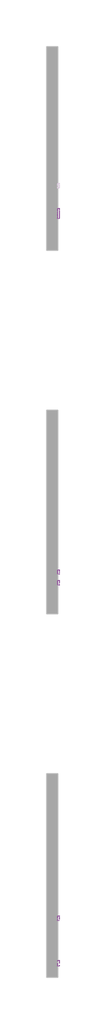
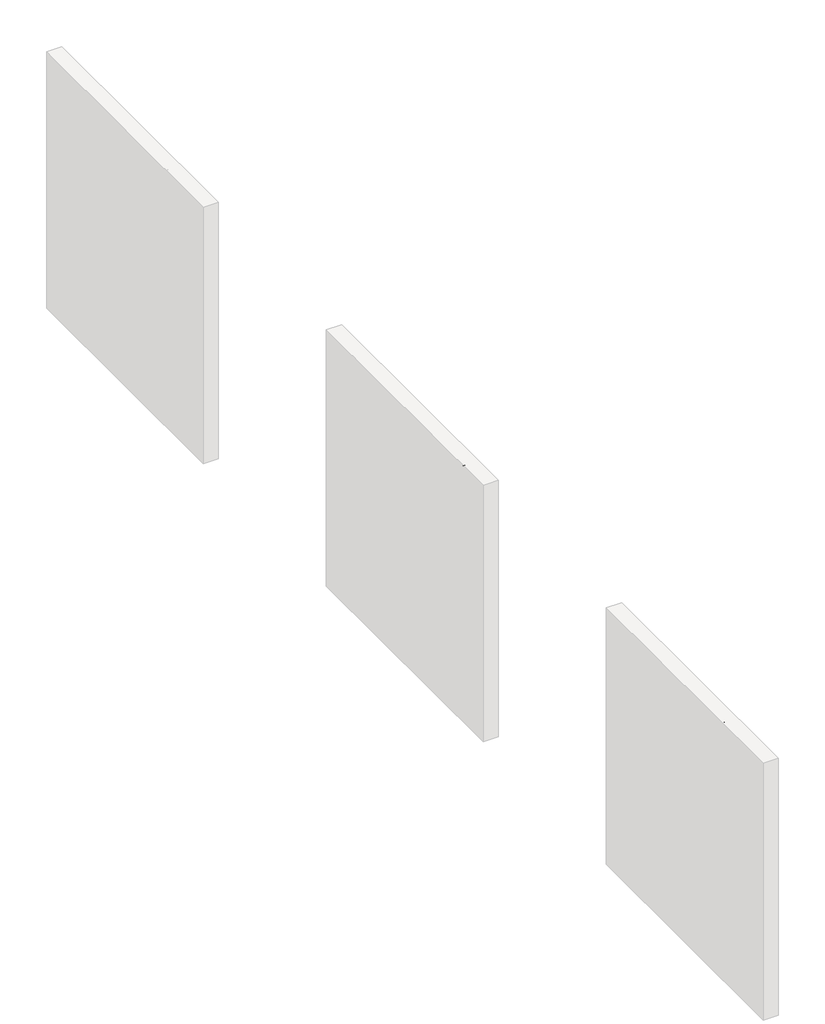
# One storey, part 5 of 7: 5 proxies.
"""IFC4 building model written with IfcOpenShell, lengths in millimetres."""

from ifc_helpers import new_model, si_unit, frame, origin, place, context, project, spatial, polyline, outline, extrude, element, save

model = new_model("IFC4")

# Units and contexts
model_context = context("Model", 3, world=origin())
ifc_project = project(units=[si_unit("LENGTHUNIT", "METRE", prefix="MILLI")], contexts=[model_context])

# Site, building, storey
site = spatial("IfcSite", under=ifc_project)
building = spatial("IfcBuilding", under=site)
storey = spatial("IfcBuildingStorey", under=building, Name="PORTOBELLO - SHOWROOM", Elevation=0.0)

# Proxies
placement = place(None, origin())
element("IfcBuildingElementProxy", 1, Name="10mm Arial", ObjectType="10mm Arial", at=placement, inside=storey, context=model_context, shape_type="SweptSolid", body=[
    extrude(outline(polyline([(411.1095472, 2478.0448381), (411.1095472, 2578.5011483), (423.6665859, 2578.5011483), (423.6665859, 2537.6907723), (477.0340007, 2537.6907723), (477.0340007, 2578.5011483), (489.5910395, 2578.5011483), (489.5910395, 2478.0448381), (477.0340007, 2478.0448381), (477.0340007, 2525.1337335), (423.6665859, 2525.1337335), (423.6665859, 2478.0448381), (411.1095472, 2478.0448381)])), frame((45290.81561, 0.0, 0.0), z_axis=(1.0, 0.0, 0.0), x_axis=(0.0, 1.0, 0.0)), (0.0, 0.0, 1.0), 20.0),
    extrude(outline(polyline([(506.8569678, 2514.9311395), (509.5731632, 2532.718234), (517.7217494, 2545.2200904), (527.7894533, 2551.3453256), (539.84372, 2553.3870707), (553.0353552, 2550.9008016), (563.5721087, 2543.4419941), (570.4790932, 2531.5992596), (572.7814213, 2515.9612091), (568.7101939, 2493.6185092), (556.8521309, 2480.9756313), (539.84372, 2476.4752083), (526.4926693, 2478.9522804), (515.9681785, 2486.3834967), (509.1347705, 2498.4745516), (506.8569678, 2514.9311395)]), holes=[polyline([(519.4140066, 2514.955665), (520.8671404, 2503.591177), (525.2265421, 2495.4947074), (531.7871043, 2490.6478621), (539.84372, 2489.032247), (547.8635475, 2490.6570592), (554.411847, 2495.5314956), (558.7712487, 2503.7352641), (560.2243826, 2515.3480724), (558.7620516, 2526.3814666), (554.3750588, 2534.3675716), (547.8175623, 2539.2144169), (539.84372, 2540.8300319), (531.7871043, 2539.2205482), (525.2265421, 2534.392097), (520.8671404, 2526.3140216), (519.4140066, 2514.955665)])]), frame((45290.81561, 0.0, 0.0), z_axis=(1.0, 0.0, 0.0), x_axis=(0.0, 1.0, 0.0)), (0.0, 0.0, 1.0), 20.0),
    extrude(outline(polyline([(586.9080899, 2478.0448381), (586.9080899, 2551.8174409), (599.4651287, 2551.8174409), (599.4651287, 2541.516745), (609.0668488, 2550.4194893), (622.1757105, 2553.3870707), (634.0337735, 2550.9958377), (642.1271774, 2544.7173184), (645.8918365, 2535.4834803), (646.5540241, 2523.3433744), (646.5540241, 2478.0448381), (633.9969853, 2478.0448381), (633.9969853, 2521.6511173), (632.5499828, 2532.7611535), (627.4364231, 2538.6350027), (618.8157217, 2540.8300319), (605.1918251, 2535.9004132), (600.8968028, 2528.7573711), (599.4651287, 2517.1874824), (599.4651287, 2478.0448381), (586.9080899, 2478.0448381)])), frame((45290.81561, 0.0, 0.0), z_axis=(1.0, 0.0, 0.0), x_axis=(0.0, 1.0, 0.0)), (0.0, 0.0, 1.0), 20.0),
    extrude(outline(polyline([(660.6806927, 2514.9311395), (663.3968881, 2532.718234), (671.5454743, 2545.2200904), (681.6131782, 2551.3453256), (693.6674449, 2553.3870707), (706.8590801, 2550.9008016), (717.3958336, 2543.4419941), (724.3028181, 2531.5992596), (726.6051462, 2515.9612091), (722.5339188, 2493.6185092), (710.6758558, 2480.9756313), (693.6674449, 2476.4752083), (680.3163942, 2478.9522804), (669.7919034, 2486.3834967), (662.9584954, 2498.4745516), (660.6806927, 2514.9311395)]), holes=[polyline([(673.2377315, 2514.955665), (674.6908654, 2503.591177), (679.050267, 2495.4947074), (685.6108292, 2490.6478621), (693.6674449, 2489.032247), (701.6872724, 2490.6570592), (708.2355719, 2495.5314956), (712.5949736, 2503.7352641), (714.0481075, 2515.3480724), (712.5857765, 2526.3814666), (708.1987837, 2534.3675716), (701.6412872, 2539.2144169), (693.6674449, 2540.8300319), (685.6108292, 2539.2205482), (679.050267, 2534.392097), (674.6908654, 2526.3140216), (673.2377315, 2514.955665)])]), frame((45290.81561, 0.0, 0.0), z_axis=(1.0, 0.0, 0.0), x_axis=(0.0, 1.0, 0.0)), (0.0, 0.0, 1.0), 20.0),
    extrude(outline(polyline([(45310.81561, 753.2888536), (45310.81561, 740.7318149), (45290.81561, 740.7318149), (45290.81561, 753.2888536), (45310.81561, 753.2888536)])), frame((0.0, 0.0, 2478.0448381), z_axis=(0.0, 0.0, 1.0), x_axis=(1.0, 0.0, 0.0)), (0.0, 0.0, 1.0), 100.4563101),
    extrude(outline(polyline([(819.2133072, 2478.0448381), (819.2133072, 2490.7245042), (809.3785952, 2480.0375322), (796.5517763, 2476.4752083), (784.7427642, 2478.9768058), (776.6003094, 2485.2553252), (772.8601758, 2494.501426), (772.1244118, 2506.175548), (772.1244118, 2551.8174409), (784.6814505, 2551.8174409), (784.6814505, 2512.0861854), (785.44174, 2499.283892), (790.4081469, 2491.7668365), (799.7646123, 2489.032247), (810.2492492, 2491.8281502), (817.1776935, 2499.4433075), (819.2133072, 2513.435086), (819.2133072, 2551.8174409), (831.7703459, 2551.8174409), (831.7703459, 2478.0448381), (819.2133072, 2478.0448381)])), frame((45290.81561, 0.0, 0.0), z_axis=(1.0, 0.0, 0.0), x_axis=(0.0, 1.0, 0.0)), (0.0, 0.0, 1.0), 20.0),
    extrude(outline(polyline([(45310.81561, 861.593313), (45310.81561, 849.0362742), (45290.81561, 849.0362742), (45290.81561, 861.593313), (45310.81561, 861.593313)])), frame((0.0, 0.0, 2478.0448381), z_axis=(0.0, 0.0, 1.0), x_axis=(1.0, 0.0, 0.0)), (0.0, 0.0, 1.0), 100.4563101),
    extrude(outline(polyline([(927.5177665, 2478.0448381), (927.5177665, 2490.7245042), (917.6830545, 2480.0375322), (904.8562356, 2476.4752083), (893.0472236, 2478.9768058), (884.9047688, 2485.2553252), (881.1646351, 2494.501426), (880.4288712, 2506.175548), (880.4288712, 2551.8174409), (892.9859099, 2551.8174409), (892.9859099, 2512.0861854), (893.7461994, 2499.283892), (898.7126063, 2491.7668365), (908.0690717, 2489.032247), (918.5537086, 2491.8281502), (925.4821528, 2499.4433075), (927.5177665, 2513.435086), (927.5177665, 2551.8174409), (940.0748053, 2551.8174409), (940.0748053, 2478.0448381), (927.5177665, 2478.0448381)])), frame((45290.81561, 0.0, 0.0), z_axis=(1.0, 0.0, 0.0), x_axis=(0.0, 1.0, 0.0)), (0.0, 0.0, 1.0), 20.0),
])
element("IfcBuildingElementProxy", 2, Name="10mm Arial", ObjectType="10mm Arial", at=placement, inside=storey, context=model_context, shape_type="SweptSolid", body=[
    extrude(outline(polyline([(45310.81561, 5270.2362158), (45310.81561, 5257.679177), (45290.81561, 5257.679177), (45290.81561, 5270.2362158), (45310.81561, 5270.2362158)])), frame((0.0, 0.0, 2478.0448381), z_axis=(0.0, 0.0, 1.0), x_axis=(1.0, 0.0, 0.0)), (0.0, 0.0, 1.0), 100.4563101),
    extrude(outline(polyline([(5306.3377022, 2478.0448381), (5293.7806635, 2478.0448381), (5293.7806635, 2578.5011483), (5306.3377022, 2578.5011483), (5306.3377022, 2541.2469649), (5315.1300819, 2550.3520443), (5326.0561772, 2553.3870707), (5338.6377414, 2550.6524812), (5348.398877, 2542.9637475), (5354.3953536, 2531.0075827), (5356.5658573, 2516.0347855), (5354.3187115, 2499.2716292), (5347.5772739, 2486.8004296), (5337.6843139, 2479.0565136), (5325.9826008, 2476.4752083), (5314.8173822, 2479.8045403), (5306.3377022, 2489.7925365), (5306.3377022, 2478.0448381)]), holes=[polyline([(5306.3377022, 2515.4461743), (5309.7712675, 2497.8859404), (5316.3502239, 2491.2456704), (5324.9034803, 2489.032247), (5332.1507556, 2490.6631905), (5338.3434358, 2495.5560211), (5342.5924729, 2503.6800818), (5344.0088186, 2515.0047159), (5342.6507209, 2526.4948969), (5338.5764278, 2534.5269871), (5332.5768856, 2539.2542707), (5325.4430405, 2540.8300319), (5318.1957652, 2539.1990884), (5312.003085, 2534.3062579), (5307.7540479, 2526.32935), (5306.3377022, 2515.4461743)])]), frame((45290.81561, 0.0, 0.0), z_axis=(1.0, 0.0, 0.0), x_axis=(0.0, 1.0, 0.0)), (0.0, 0.0, 1.0), 20.0),
    extrude(outline(polyline([(45310.81561, 5383.2495647), (45310.81561, 5370.6925259), (45290.81561, 5370.6925259), (45290.81561, 5383.2495647), (45310.81561, 5383.2495647)])), frame((0.0, 0.0, 2565.9441095), z_axis=(0.0, 0.0, 1.0), x_axis=(1.0, 0.0, 0.0)), (0.0, 0.0, 1.0), 12.5570388),
    extrude(outline(polyline([(45310.81561, 5383.2495647), (45310.81561, 5370.6925259), (45290.81561, 5370.6925259), (45290.81561, 5383.2495647), (45310.81561, 5383.2495647)])), frame((0.0, 0.0, 2478.0448381), z_axis=(0.0, 0.0, 1.0), x_axis=(1.0, 0.0, 0.0)), (0.0, 0.0, 1.0), 73.7726028),
    extrude(outline(polyline([(5394.2369736, 2478.0448381), (5394.2369736, 2489.8661129), (5437.5734727, 2539.2604021), (5424.7466538, 2539.2604021), (5397.3762333, 2539.2604021), (5397.3762333, 2551.8174409), (5455.4525376, 2551.8174409), (5455.4525376, 2541.148863), (5417.0211319, 2497.3218546), (5411.1350199, 2490.6018769), (5425.654096, 2490.6018769), (5457.0221675, 2490.6018769), (5457.0221675, 2478.0448381), (5394.2369736, 2478.0448381)])), frame((45290.81561, 0.0, 0.0), z_axis=(1.0, 0.0, 0.0), x_axis=(0.0, 1.0, 0.0)), (0.0, 0.0, 1.0), 20.0),
    extrude(outline(polyline([(5516.6681016, 2487.4626172), (5504.4912076, 2478.9522804), (5491.0389893, 2476.4752083), (5480.5451554, 2477.9651303), (5472.8043051, 2482.4348966), (5468.0310362, 2489.2223194), (5466.4399465, 2497.6652112), (5468.8434423, 2507.598025), (5475.1587498, 2514.8085122), (5483.9511295, 2518.9287905), (5494.8159111, 2520.8172514), (5516.5945252, 2525.1337335), (5516.6681016, 2527.9296366), (5513.2100109, 2537.2002629), (5499.3285969, 2540.8300319), (5486.6244054, 2538.4142735), (5480.5666152, 2529.842623), (5468.0095764, 2531.4122529), (5473.4419672, 2543.674986), (5484.3803252, 2550.8609477), (5500.9472777, 2553.3870707), (5516.1653296, 2551.1552533), (5524.7615055, 2545.5511842), (5528.6120037, 2537.0285847), (5529.2251404, 2526.0411757), (5529.2251404, 2510.4184537), (5529.8628025, 2488.6030514), (5532.3644001, 2478.0448381), (5519.8073613, 2478.0448381), (5516.6681016, 2487.4626172)]), holes=[polyline([(5516.6681016, 2512.5766947), (5496.4100664, 2508.7261965), (5485.6065985, 2506.6905828), (5480.713768, 2503.3796448), (5478.9969853, 2498.548128), (5482.7371189, 2491.7545738), (5493.7122651, 2489.032247), (5506.4164567, 2492.0366167), (5514.6079625, 2499.3084174), (5516.5945252, 2509.0205021), (5516.6681016, 2512.5766947)])]), frame((45290.81561, 0.0, 0.0), z_axis=(1.0, 0.0, 0.0), x_axis=(0.0, 1.0, 0.0)), (0.0, 0.0, 1.0), 20.0),
])
element("IfcBuildingElementProxy", 3, Name="10mm Arial", ObjectType="10mm Arial", at=placement, inside=storey, context=model_context, shape_type="SweptSolid", body=[
    extrude(outline(polyline([(10061.1095472, 2478.0448381), (10061.1095472, 2578.5011483), (10073.6665859, 2578.5011483), (10073.6665859, 2529.3275882), (10125.1700653, 2578.5011483), (10142.7302992, 2578.5011483), (10099.491902, 2537.2002629), (10144.299929, 2478.0448381), (10128.9469871, 2478.0448381), (10090.5891577, 2528.7144516), (10073.6665859, 2512.5766947), (10073.6665859, 2478.0448381), (10061.1095472, 2478.0448381)])), frame((45290.81561, 0.0, 0.0), z_axis=(1.0, 0.0, 0.0), x_axis=(0.0, 1.0, 0.0)), (0.0, 0.0, 1.0), 20.0),
    extrude(outline(polyline([(10203.7987104, 2500.0196559), (10216.1104945, 2498.4500261), (10211.6744508, 2489.1732685), (10204.595788, 2482.2386928), (10195.0339218, 2477.9160794), (10183.1482677, 2476.4752083), (10168.4145938, 2478.9614774), (10157.077697, 2486.4202849), (10149.8488158, 2498.3672527), (10147.4391887, 2514.3180028), (10149.8733412, 2530.8052476), (10157.1757988, 2543.1354258), (10168.3594115, 2550.8241595), (10182.4370292, 2553.3870707), (10196.0762542, 2550.8302908), (10206.9747583, 2543.1599512), (10214.120866, 2530.8542985), (10216.5029019, 2514.3915792), (10216.4293255, 2511.0070649), (10159.9962275, 2511.0070649), (10162.1697969, 2501.6076799), (10167.2189773, 2494.6976298), (10174.5061065, 2490.4485927), (10183.3935224, 2489.032247), (10195.7053065, 2491.6564719), (10203.7987104, 2500.0196559)]), holes=[polyline([(10159.9962275, 2523.5641036), (10203.9458632, 2523.5641036), (10198.9181426, 2534.94392), (10191.5972909, 2539.358504), (10182.3879783, 2540.8300319), (10166.9246717, 2536.1334051), (10162.0594323, 2530.6427664), (10159.9962275, 2523.5641036)])]), frame((45290.81561, 0.0, 0.0), z_axis=(1.0, 0.0, 0.0), x_axis=(0.0, 1.0, 0.0)), (0.0, 0.0, 1.0), 20.0),
    extrude(outline(polyline([(10229.0599407, 2449.7915009), (10227.4903109, 2461.8825558), (10233.8669321, 2460.7789098), (10239.8266204, 2462.1645986), (10243.4809149, 2466.0273596), (10246.9144802, 2475.2734604), (10247.8954989, 2478.3146182), (10221.2117915, 2551.8174409), (10234.4555433, 2551.8174409), (10248.6067374, 2510.8599121), (10253.5363561, 2494.4769006), (10258.4659749, 2508.9469257), (10273.0095764, 2551.8174409), (10286.1552264, 2551.8174409), (10260.4770631, 2476.2790045), (10253.8061362, 2459.895993), (10246.5220727, 2451.0422997), (10236.7364117, 2448.221871), (10229.0599407, 2449.7915009)])), frame((45290.81561, 0.0, 0.0), z_axis=(1.0, 0.0, 0.0), x_axis=(0.0, 1.0, 0.0)), (0.0, 0.0, 1.0), 20.0),
    extrude(outline(polyline([(10355.3415669, 2478.0448381), (10327.946621, 2578.5011483), (10340.8960672, 2578.5011483), (10356.7885694, 2512.4785929), (10361.6936627, 2492.0979303), (10366.9421125, 2510.1241481), (10386.8567912, 2578.5011483), (10405.5206711, 2578.5011483), (10419.9906962, 2528.9351808), (10430.7573759, 2492.0979303), (10435.5153164, 2511.8899817), (10451.5549714, 2578.5011483), (10464.5044176, 2578.5011483), (10437.0849462, 2478.0448381), (10423.6695162, 2478.0448381), (10399.5855082, 2555.5453118), (10396.2255193, 2566.3610424), (10392.4485975, 2553.3380198), (10370.4983051, 2478.0448381), (10355.3415669, 2478.0448381)])), frame((45290.81561, 0.0, 0.0), z_axis=(1.0, 0.0, 0.0), x_axis=(0.0, 1.0, 0.0)), (0.0, 0.0, 1.0), 20.0),
    extrude(outline(polyline([(10527.1424587, 2500.0196559), (10539.4542428, 2498.4500261), (10535.018199, 2489.1732685), (10527.9395363, 2482.2386928), (10518.3776701, 2477.9160794), (10506.492016, 2476.4752083), (10491.7583421, 2478.9614774), (10480.4214453, 2486.4202849), (10473.1925641, 2498.3672527), (10470.782937, 2514.3180028), (10473.2170895, 2530.8052476), (10480.5195471, 2543.1354258), (10491.7031598, 2550.8241595), (10505.7807775, 2553.3870707), (10519.4200024, 2550.8302908), (10530.3185066, 2543.1599512), (10537.4646143, 2530.8542985), (10539.8466502, 2514.3915792), (10539.7730738, 2511.0070649), (10483.3399758, 2511.0070649), (10485.5135452, 2501.6076799), (10490.5627256, 2494.6976298), (10497.8498548, 2490.4485927), (10506.7372707, 2489.032247), (10519.0490548, 2491.6564719), (10527.1424587, 2500.0196559)]), holes=[polyline([(10483.3399758, 2523.5641036), (10527.2896115, 2523.5641036), (10522.2618909, 2534.94392), (10514.9410392, 2539.358504), (10505.7317265, 2540.8300319), (10490.26842, 2536.1334051), (10485.4031806, 2530.6427664), (10483.3399758, 2523.5641036)])]), frame((45290.81561, 0.0, 0.0), z_axis=(1.0, 0.0, 0.0), x_axis=(0.0, 1.0, 0.0)), (0.0, 0.0, 1.0), 20.0),
    extrude(outline(polyline([(10547.6947995, 2500.0196559), (10560.2518382, 2501.5892858), (10566.0643738, 2492.2696086), (10579.381702, 2489.032247), (10592.1839954, 2491.9998285), (10596.3533247, 2498.9650609), (10592.1594699, 2504.6059182), (10579.2345492, 2508.1866362), (10560.3254146, 2514.3302656), (10552.0725952, 2521.5039645), (10549.2644293, 2531.6329821), (10551.5207722, 2540.9894475), (10557.6766643, 2548.1386209), (10565.6597036, 2551.8542291), (10576.4631715, 2553.3870707), (10591.742537, 2550.9222613), (10601.4546217, 2544.2513345), (10605.7711038, 2532.9818827), (10593.214065, 2531.4122529), (10588.4929127, 2538.3406971), (10577.4441901, 2540.8300319), (10565.4267116, 2538.4510617), (10561.8214681, 2532.9083063), (10563.3175215, 2529.2540118), (10568.0018856, 2526.4826341), (10578.8176163, 2523.8093583), (10597.2485042, 2517.8987209), (10605.807892, 2511.2032686), (10608.9103635, 2500.2894361), (10605.2683317, 2488.2719576), (10594.7591694, 2479.5531543), (10579.2100237, 2476.4752083), (10566.5487517, 2477.958999), (10557.3087823, 2482.4103711), (10551.1406275, 2489.7802737), (10547.6947995, 2500.0196559)])), frame((45290.81561, 0.0, 0.0), z_axis=(1.0, 0.0, 0.0), x_axis=(0.0, 1.0, 0.0)), (0.0, 0.0, 1.0), 20.0),
    extrude(outline(polyline([(10649.7207395, 2488.5172122), (10651.2903693, 2477.6769561), (10641.8971157, 2476.4752083), (10631.3756906, 2478.5598729), (10626.1272408, 2484.0290519), (10624.6066619, 2498.2783478), (10624.6066619, 2539.2604021), (10615.1888828, 2539.2604021), (10615.1888828, 2551.8174409), (10624.6066619, 2551.8174409), (10624.6066619, 2569.7455568), (10637.1637007, 2577.1277221), (10637.1637007, 2551.8174409), (10649.7207395, 2551.8174409), (10649.7207395, 2539.2604021), (10637.1637007, 2539.2604021), (10637.1637007, 2498.6462298), (10637.8258883, 2492.1715067), (10639.9718666, 2489.8783756), (10644.2515605, 2489.032247), (10649.7207395, 2488.5172122)])), frame((45290.81561, 0.0, 0.0), z_axis=(1.0, 0.0, 0.0), x_axis=(0.0, 1.0, 0.0)), (0.0, 0.0, 1.0), 20.0),
])
element("IfcBuildingElementProxy", 4, Name="10mm Arial Narrow", ObjectType="10mm Arial Narrow", at=placement, inside=storey, context=model_context, shape_type="SweptSolid", body=[
    extrude(outline(polyline([(1013.2446063, 2478.0448381), (1013.2446063, 2578.7634419), (1044.541491, 2578.7634419), (1060.8371925, 2576.8851211), (1072.3101786, 2567.4046779), (1076.599857, 2550.3855691), (1074.8135486, 2538.3097436), (1069.4546234, 2528.6833498), (1059.7108346, 2522.3820914), (1044.7699354, 2520.2816719), (1022.9915679, 2520.2816719), (1022.9915679, 2478.0448381), (1013.2446063, 2478.0448381)]), holes=[polyline([(1022.9915679, 2531.6531272), (1045.9629229, 2531.6531272), (1061.8271183, 2536.1839414), (1066.8528954, 2549.8525322), (1064.3780809, 2560.0183086), (1058.4004521, 2565.8182584), (1045.7344785, 2567.3919866), (1022.9915679, 2567.3919866), (1022.9915679, 2531.6531272)])]), frame((45290.81561, 0.0, 0.0), z_axis=(1.0, 0.0, 0.0), x_axis=(0.0, 1.0, 0.0)), (0.0, 0.0, 1.0), 20.0),
    extrude(outline(polyline([(1084.7223251, 2514.5959443), (1086.676794, 2531.1867199), (1092.5402006, 2543.1388047), (1101.3987673, 2550.3633593), (1112.3387164, 2552.7715441), (1123.151752, 2550.3633593), (1132.0357014, 2543.1388047), (1137.9752562, 2531.3770902), (1139.9551078, 2515.3574257), (1138.0101574, 2498.1955391), (1132.1753064, 2486.0530839), (1123.3262582, 2478.8285294), (1112.3387164, 2476.4203445), (1101.4780883, 2478.834875), (1092.6036574, 2486.0784667), (1086.6926582, 2498.0368971), (1084.7223251, 2514.5959443)]), holes=[polyline([(1094.4692867, 2514.621327), (1095.7733236, 2502.0695756), (1099.6854342, 2493.1983175), (1105.5266309, 2487.925059), (1112.6179263, 2486.1673061), (1119.3379995, 2487.9409232), (1125.0300728, 2493.2617743), (1128.9136278, 2502.1488966), (1130.2081461, 2514.621327), (1128.9041093, 2527.1350043), (1124.9919987, 2535.9935711), (1119.1508019, 2541.2668296), (1112.0595066, 2543.0245825), (1105.2918408, 2541.2573111), (1099.6092861, 2535.955497), (1095.7542866, 2527.0874118), (1094.4692867, 2514.621327)])]), frame((45290.81561, 0.0, 0.0), z_axis=(1.0, 0.0, 0.0), x_axis=(0.0, 1.0, 0.0)), (0.0, 0.0, 1.0), 20.0),
    extrude(outline(polyline([(1211.4328266, 2486.1673061), (1213.0573202, 2476.4203445), (1205.6963335, 2476.4203445), (1197.4215692, 2478.539801), (1193.1065081, 2484.3397508), (1191.9389033, 2498.985576), (1191.9389033, 2541.4000889), (1183.8164352, 2541.4000889), (1183.8164352, 2544.6490761), (1182.1919416, 2539.7755952), (1174.6278933, 2541.4000889), (1168.5487336, 2539.0775706), (1164.6778699, 2532.5922876), (1162.6980183, 2517.184981), (1162.6980183, 2478.0448381), (1152.9510567, 2478.0448381), (1152.9510567, 2551.1470505), (1162.6980183, 2551.1470505), (1162.6980183, 2541.4508543), (1168.9421656, 2550.5378654), (1175.3386092, 2552.7715441), (1183.8164352, 2551.1470505), (1191.9389033, 2551.1470505), (1191.9389033, 2567.3919866), (1201.6858649, 2575.5144546), (1201.6858649, 2551.1470505), (1211.4328266, 2551.1470505), (1211.4328266, 2541.4000889), (1201.6858649, 2541.4000889), (1201.6858649, 2496.7518973), (1202.5488772, 2488.7563428), (1207.1685309, 2486.1673061), (1211.4328266, 2486.1673061)])), frame((45290.81561, 0.0, 0.0), z_axis=(1.0, 0.0, 0.0), x_axis=(0.0, 1.0, 0.0)), (0.0, 0.0, 1.0), 20.0),
    extrude(outline(polyline([(1217.930801, 2514.5959443), (1219.8852699, 2531.1867199), (1225.7486765, 2543.1388047), (1234.6072432, 2550.3633593), (1245.5471924, 2552.7715441), (1256.360228, 2550.3633593), (1265.2441774, 2543.1388047), (1271.1837321, 2531.3770902), (1273.1635837, 2515.3574257), (1271.2186334, 2498.1955391), (1265.3837823, 2486.0530839), (1256.5347341, 2478.8285294), (1245.5471924, 2476.4203445), (1234.6865642, 2478.834875), (1225.8121333, 2486.0784667), (1219.9011341, 2498.0368971), (1217.930801, 2514.5959443)]), holes=[polyline([(1227.6777627, 2514.621327), (1228.9817995, 2502.0695756), (1232.8939101, 2493.1983175), (1238.7351069, 2487.925059), (1245.8264022, 2486.1673061), (1252.5464754, 2487.9409232), (1258.2385487, 2493.2617743), (1262.1221037, 2502.1488966), (1263.4166221, 2514.621327), (1262.1125852, 2527.1350043), (1258.2004746, 2535.9935711), (1252.3592779, 2541.2668296), (1245.2679825, 2543.0245825), (1238.5003168, 2541.2573111), (1232.817762, 2535.955497), (1228.9627625, 2527.0874118), (1227.6777627, 2514.621327)])]), frame((45290.81561, 0.0, 0.0), z_axis=(1.0, 0.0, 0.0), x_axis=(0.0, 1.0, 0.0)), (0.0, 0.0, 1.0), 20.0),
    extrude(outline(polyline([(1295.9064942, 2478.0448381), (1286.1595326, 2478.0448381), (1286.1595326, 2578.7634419), (1295.9064942, 2578.7634419), (1295.9064942, 2543.3545577), (1303.305555, 2550.4363345), (1312.5067883, 2552.7715441), (1325.388515, 2548.5707052), (1334.6658964, 2535.8412748), (1338.1433281, 2515.154364), (1336.2110691, 2498.7000205), (1330.4142921, 2486.4972814), (1322.0411697, 2478.9395787), (1312.3798748, 2476.4203445), (1303.0390365, 2479.0347639), (1295.9064942, 2486.801874), (1295.9064942, 2478.0448381)]), holes=[polyline([(1295.9064942, 2515.154364), (1297.9878767, 2497.9068107), (1303.876666, 2489.1751576), (1312.3291093, 2486.1673061), (1318.2718369, 2487.9567874), (1323.5101942, 2493.3252311), (1328.3963664, 2514.7482406), (1323.6878732, 2536.1839414), (1318.4431702, 2541.3144222), (1312.1260476, 2543.0245825), (1306.1484188, 2541.2351012), (1300.8561232, 2535.8666575), (1295.9064942, 2515.154364)])]), frame((45290.81561, 0.0, 0.0), z_axis=(1.0, 0.0, 0.0), x_axis=(0.0, 1.0, 0.0)), (0.0, 0.0, 1.0), 20.0),
    extrude(outline(polyline([(1390.1271236, 2500.7877486), (1399.8740852, 2499.163255), (1396.1745549, 2489.2766884), (1390.355568, 2482.1568376), (1382.6519147, 2477.8544678), (1373.2983851, 2476.4203445), (1361.7048311, 2478.834875), (1352.5607089, 2486.0784667), (1346.6211541, 2497.8846009), (1344.6413025, 2513.9867592), (1346.6306726, 2530.6536829), (1352.5987829, 2542.8342121), (1361.6128188, 2550.2872111), (1372.7399654, 2552.7715441), (1383.4229146, 2550.3728778), (1392.1704319, 2543.1768787), (1398.005283, 2531.4373741), (1399.9502334, 2515.4081911), (1399.8740852, 2512.1592039), (1354.3882642, 2512.1592039), (1360.3912757, 2492.716046), (1366.3213119, 2487.8044911), (1373.4252986, 2486.1673061), (1383.6037664, 2489.8224168), (1390.1271236, 2500.7877486)]), holes=[polyline([(1355.0482147, 2521.9061655), (1390.1271236, 2521.9061655), (1385.8628278, 2536.17125), (1380.0374953, 2541.3112494), (1372.8161135, 2543.0245825), (1360.6070288, 2537.3134721), (1355.0482147, 2521.9061655)])]), frame((45290.81561, 0.0, 0.0), z_axis=(1.0, 0.0, 0.0), x_axis=(0.0, 1.0, 0.0)), (0.0, 0.0, 1.0), 20.0),
    extrude(outline(polyline([(45310.81561, 1422.6169957), (45310.81561, 1412.8700341), (45290.81561, 1412.8700341), (45290.81561, 1422.6169957), (45310.81561, 1422.6169957)])), frame((0.0, 0.0, 2478.0448381), z_axis=(0.0, 0.0, 1.0), x_axis=(1.0, 0.0, 0.0)), (0.0, 0.0, 1.0), 100.7186038),
    extrude(outline(polyline([(45310.81561, 1448.6088935), (45310.81561, 1438.8619318), (45290.81561, 1438.8619318), (45290.81561, 1448.6088935), (45310.81561, 1448.6088935)])), frame((0.0, 0.0, 2478.0448381), z_axis=(0.0, 0.0, 1.0), x_axis=(1.0, 0.0, 0.0)), (0.0, 0.0, 1.0), 100.7186038),
    extrude(outline(polyline([(1459.9803487, 2514.5959443), (1461.9348176, 2531.1867199), (1467.7982242, 2543.1388047), (1476.656791, 2550.3633593), (1487.5967401, 2552.7715441), (1498.4097757, 2550.3633593), (1507.2937251, 2543.1388047), (1513.2332799, 2531.3770902), (1515.2131315, 2515.3574257), (1513.2681811, 2498.1955391), (1507.43333, 2486.0530839), (1498.5842818, 2478.8285294), (1487.5967401, 2476.4203445), (1476.7361119, 2478.834875), (1467.861681, 2486.0784667), (1461.9506818, 2498.0368971), (1459.9803487, 2514.5959443)]), holes=[polyline([(1469.7273104, 2514.621327), (1471.0313473, 2502.0695756), (1474.9434578, 2493.1983175), (1480.7846546, 2487.925059), (1487.8759499, 2486.1673061), (1494.5960231, 2487.9409232), (1500.2880964, 2493.2617743), (1504.1716515, 2502.1488966), (1505.4661698, 2514.621327), (1504.1621329, 2527.1350043), (1500.2500224, 2535.9935711), (1494.4088256, 2541.2668296), (1487.3175303, 2543.0245825), (1480.5498645, 2541.2573111), (1474.8673097, 2535.955497), (1471.0123102, 2527.0874118), (1469.7273104, 2514.621327)])]), frame((45290.81561, 0.0, 0.0), z_axis=(1.0, 0.0, 0.0), x_axis=(0.0, 1.0, 0.0)), (0.0, 0.0, 1.0), 20.0),
])
element("IfcBuildingElementProxy", 5, Name="10mm Arial Narrow", ObjectType="10mm Arial Narrow", at=placement, inside=storey, context=model_context, shape_type="SweptSolid", body=[
    extrude(outline(polyline([(5608.2446063, 2478.0448381), (5608.2446063, 2578.7634419), (5639.541491, 2578.7634419), (5655.8371925, 2576.8851211), (5667.3101786, 2567.4046779), (5671.599857, 2550.3855691), (5669.8135486, 2538.3097436), (5664.4546234, 2528.6833498), (5654.7108346, 2522.3820914), (5639.7699354, 2520.2816719), (5617.9915679, 2520.2816719), (5617.9915679, 2478.0448381), (5608.2446063, 2478.0448381)]), holes=[polyline([(5617.9915679, 2531.6531272), (5640.9629229, 2531.6531272), (5656.8271183, 2536.1839414), (5661.8528954, 2549.8525322), (5659.3780809, 2560.0183086), (5653.4004521, 2565.8182584), (5640.7344785, 2567.3919866), (5617.9915679, 2567.3919866), (5617.9915679, 2531.6531272)])]), frame((45290.81561, 0.0, 0.0), z_axis=(1.0, 0.0, 0.0), x_axis=(0.0, 1.0, 0.0)), (0.0, 0.0, 1.0), 20.0),
    extrude(outline(polyline([(5679.7223251, 2514.5959443), (5681.676794, 2531.1867199), (5687.5402006, 2543.1388047), (5696.3987673, 2550.3633593), (5707.3387164, 2552.7715441), (5718.151752, 2550.3633593), (5727.0357014, 2543.1388047), (5732.9752562, 2531.3770902), (5734.9551078, 2515.3574257), (5733.0101574, 2498.1955391), (5727.1753064, 2486.0530839), (5718.3262582, 2478.8285294), (5707.3387164, 2476.4203445), (5696.4780883, 2478.834875), (5687.6036574, 2486.0784667), (5681.6926582, 2498.0368971), (5679.7223251, 2514.5959443)]), holes=[polyline([(5689.4692867, 2514.621327), (5690.7733236, 2502.0695756), (5694.6854342, 2493.1983175), (5700.5266309, 2487.925059), (5707.6179263, 2486.1673061), (5714.3379995, 2487.9409232), (5720.0300728, 2493.2617743), (5723.9136278, 2502.1488966), (5725.2081461, 2514.621327), (5723.9041093, 2527.1350043), (5719.9919987, 2535.9935711), (5714.1508019, 2541.2668296), (5707.0595066, 2543.0245825), (5700.2918408, 2541.2573111), (5694.6092861, 2535.955497), (5690.7542866, 2527.0874118), (5689.4692867, 2514.621327)])]), frame((45290.81561, 0.0, 0.0), z_axis=(1.0, 0.0, 0.0), x_axis=(0.0, 1.0, 0.0)), (0.0, 0.0, 1.0), 20.0),
    extrude(outline(polyline([(5806.4328266, 2486.1673061), (5808.0573202, 2476.4203445), (5800.6963335, 2476.4203445), (5792.4215692, 2478.539801), (5788.1065081, 2484.3397508), (5786.9389033, 2498.985576), (5786.9389033, 2541.4000889), (5778.8164352, 2541.4000889), (5778.8164352, 2544.6490761), (5777.1919416, 2539.7755952), (5769.6278933, 2541.4000889), (5763.5487336, 2539.0775706), (5759.6778699, 2532.5922876), (5757.6980183, 2517.184981), (5757.6980183, 2478.0448381), (5747.9510567, 2478.0448381), (5747.9510567, 2551.1470505), (5757.6980183, 2551.1470505), (5757.6980183, 2541.4508543), (5763.9421656, 2550.5378654), (5770.3386092, 2552.7715441), (5778.8164352, 2551.1470505), (5786.9389033, 2551.1470505), (5786.9389033, 2567.3919866), (5796.6858649, 2575.5144546), (5796.6858649, 2551.1470505), (5806.4328266, 2551.1470505), (5806.4328266, 2541.4000889), (5796.6858649, 2541.4000889), (5796.6858649, 2496.7518973), (5797.5488772, 2488.7563428), (5802.1685309, 2486.1673061), (5806.4328266, 2486.1673061)])), frame((45290.81561, 0.0, 0.0), z_axis=(1.0, 0.0, 0.0), x_axis=(0.0, 1.0, 0.0)), (0.0, 0.0, 1.0), 20.0),
    extrude(outline(polyline([(5812.930801, 2514.5959443), (5814.8852699, 2531.1867199), (5820.7486765, 2543.1388047), (5829.6072432, 2550.3633593), (5840.5471924, 2552.7715441), (5851.360228, 2550.3633593), (5860.2441774, 2543.1388047), (5866.1837321, 2531.3770902), (5868.1635837, 2515.3574257), (5866.2186334, 2498.1955391), (5860.3837823, 2486.0530839), (5851.5347341, 2478.8285294), (5840.5471924, 2476.4203445), (5829.6865642, 2478.834875), (5820.8121333, 2486.0784667), (5814.9011341, 2498.0368971), (5812.930801, 2514.5959443)]), holes=[polyline([(5822.6777627, 2514.621327), (5823.9817995, 2502.0695756), (5827.8939101, 2493.1983175), (5833.7351069, 2487.925059), (5840.8264022, 2486.1673061), (5847.5464754, 2487.9409232), (5853.2385487, 2493.2617743), (5857.1221037, 2502.1488966), (5858.4166221, 2514.621327), (5857.1125852, 2527.1350043), (5853.2004746, 2535.9935711), (5847.3592779, 2541.2668296), (5840.2679825, 2543.0245825), (5833.5003168, 2541.2573111), (5827.817762, 2535.955497), (5823.9627625, 2527.0874118), (5822.6777627, 2514.621327)])]), frame((45290.81561, 0.0, 0.0), z_axis=(1.0, 0.0, 0.0), x_axis=(0.0, 1.0, 0.0)), (0.0, 0.0, 1.0), 20.0),
    extrude(outline(polyline([(5890.9064942, 2478.0448381), (5881.1595326, 2478.0448381), (5881.1595326, 2578.7634419), (5890.9064942, 2578.7634419), (5890.9064942, 2543.3545577), (5898.305555, 2550.4363345), (5907.5067883, 2552.7715441), (5920.388515, 2548.5707052), (5929.6658964, 2535.8412748), (5933.1433281, 2515.154364), (5931.2110691, 2498.7000205), (5925.4142921, 2486.4972814), (5917.0411697, 2478.9395787), (5907.3798748, 2476.4203445), (5898.0390365, 2479.0347639), (5890.9064942, 2486.801874), (5890.9064942, 2478.0448381)]), holes=[polyline([(5890.9064942, 2515.154364), (5892.9878767, 2497.9068107), (5898.876666, 2489.1751576), (5907.3291093, 2486.1673061), (5913.2718369, 2487.9567874), (5918.5101942, 2493.3252311), (5923.3963664, 2514.7482406), (5918.6878732, 2536.1839414), (5913.4431702, 2541.3144222), (5907.1260476, 2543.0245825), (5901.1484188, 2541.2351012), (5895.8561232, 2535.8666575), (5890.9064942, 2515.154364)])]), frame((45290.81561, 0.0, 0.0), z_axis=(1.0, 0.0, 0.0), x_axis=(0.0, 1.0, 0.0)), (0.0, 0.0, 1.0), 20.0),
    extrude(outline(polyline([(5985.1271236, 2500.7877486), (5994.8740852, 2499.163255), (5991.1745549, 2489.2766884), (5985.355568, 2482.1568376), (5977.6519147, 2477.8544678), (5968.2983851, 2476.4203445), (5956.7048311, 2478.834875), (5947.5607089, 2486.0784667), (5941.6211541, 2497.8846009), (5939.6413025, 2513.9867592), (5941.6306726, 2530.6536829), (5947.5987829, 2542.8342121), (5956.6128188, 2550.2872111), (5967.7399654, 2552.7715441), (5978.4229146, 2550.3728778), (5987.1704319, 2543.1768787), (5993.005283, 2531.4373741), (5994.9502334, 2515.4081911), (5994.8740852, 2512.1592039), (5949.3882642, 2512.1592039), (5955.3912757, 2492.716046), (5961.3213119, 2487.8044911), (5968.4252986, 2486.1673061), (5978.6037664, 2489.8224168), (5985.1271236, 2500.7877486)]), holes=[polyline([(5950.0482147, 2521.9061655), (5985.1271236, 2521.9061655), (5980.8628278, 2536.17125), (5975.0374953, 2541.3112494), (5967.8161135, 2543.0245825), (5955.6070288, 2537.3134721), (5950.0482147, 2521.9061655)])]), frame((45290.81561, 0.0, 0.0), z_axis=(1.0, 0.0, 0.0), x_axis=(0.0, 1.0, 0.0)), (0.0, 0.0, 1.0), 20.0),
    extrude(outline(polyline([(45310.81561, 6017.6169957), (45310.81561, 6007.8700341), (45290.81561, 6007.8700341), (45290.81561, 6017.6169957), (45310.81561, 6017.6169957)])), frame((0.0, 0.0, 2478.0448381), z_axis=(0.0, 0.0, 1.0), x_axis=(1.0, 0.0, 0.0)), (0.0, 0.0, 1.0), 100.7186038),
    extrude(outline(polyline([(45310.81561, 6043.6088935), (45310.81561, 6033.8619318), (45290.81561, 6033.8619318), (45290.81561, 6043.6088935), (45310.81561, 6043.6088935)])), frame((0.0, 0.0, 2478.0448381), z_axis=(0.0, 0.0, 1.0), x_axis=(1.0, 0.0, 0.0)), (0.0, 0.0, 1.0), 100.7186038),
    extrude(outline(polyline([(6054.9803487, 2514.5959443), (6056.9348176, 2531.1867199), (6062.7982242, 2543.1388047), (6071.656791, 2550.3633593), (6082.5967401, 2552.7715441), (6093.4097757, 2550.3633593), (6102.2937251, 2543.1388047), (6108.2332799, 2531.3770902), (6110.2131315, 2515.3574257), (6108.2681811, 2498.1955391), (6102.43333, 2486.0530839), (6093.5842818, 2478.8285294), (6082.5967401, 2476.4203445), (6071.7361119, 2478.834875), (6062.861681, 2486.0784667), (6056.9506818, 2498.0368971), (6054.9803487, 2514.5959443)]), holes=[polyline([(6064.7273104, 2514.621327), (6066.0313473, 2502.0695756), (6069.9434578, 2493.1983175), (6075.7846546, 2487.925059), (6082.8759499, 2486.1673061), (6089.5960231, 2487.9409232), (6095.2880964, 2493.2617743), (6099.1716515, 2502.1488966), (6100.4661698, 2514.621327), (6099.1621329, 2527.1350043), (6095.2500224, 2535.9935711), (6089.4088256, 2541.2668296), (6082.3175303, 2543.0245825), (6075.5498645, 2541.2573111), (6069.8673097, 2535.955497), (6066.0123102, 2527.0874118), (6064.7273104, 2514.621327)])]), frame((45290.81561, 0.0, 0.0), z_axis=(1.0, 0.0, 0.0), x_axis=(0.0, 1.0, 0.0)), (0.0, 0.0, 1.0), 20.0),
])

save(model, "model.ifc")
